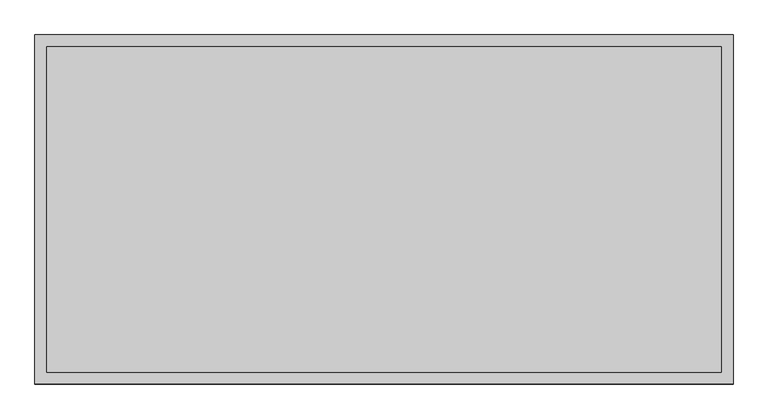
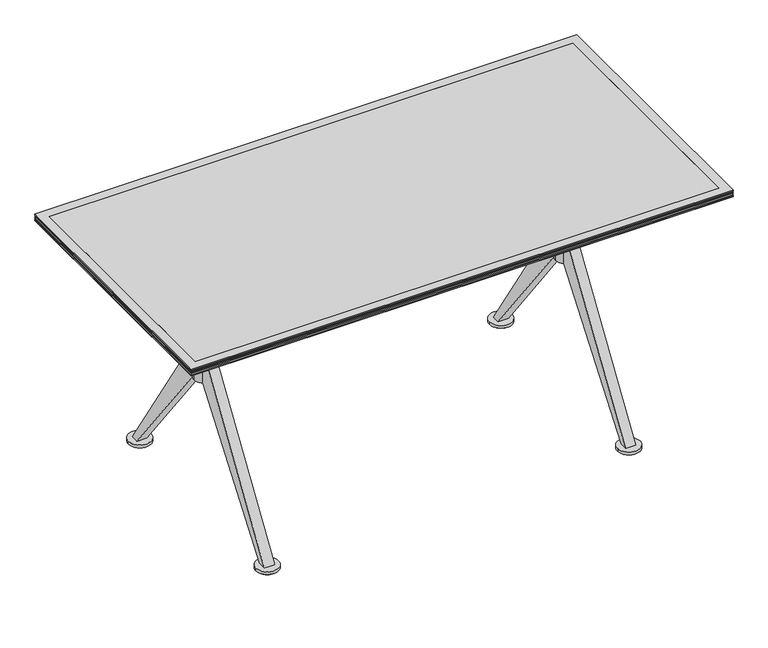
"""IFC4 building model written with IfcOpenShell, lengths in millimetres: furniture geometry, Coalesse_AM_Table_Conference_Ballet_Rectangular_XBase : Folding - 60L x 30W."""

from ifc_helpers import new_model, si_unit, point, frame, frame_2d, origin, origin_with_axes, place, context, project, spatial, polyline, circle_curve, trimmed, segment, composite_curve, outline, extrude, faceted_brep, source, transform, mapped, element, save
from ifc_brep_helpers import plane_surface, cylinder_surface, advanced_brep


def furniture_4b4476a1(model_context):
    return source(origin(), model_context, "Body", "SolidModel", [
        extrude(outline(composite_curve([segment(trimmed(circle_curve(frame_2d((-507.9480536, 310.3799254)), 25.4), [point((-533.3480536, 310.3799254))], [point((-482.5480536, 310.3799254))], False, "CARTESIAN"), True, "CONTINUOUS"), segment(trimmed(circle_curve(frame_2d((-507.9480536, 310.3799254)), 25.4), [point((-482.5480536, 310.3799254))], [point((-533.3480536, 310.3799254))], False, "CARTESIAN"), True, "CONTINUOUS")], self_intersect=False)), origin_with_axes(), (0.0, 0.0, 1.0), 4.5427804),
        extrude(outline(composite_curve([segment(trimmed(circle_curve(frame_2d((-508.5656541, -311.83186)), 25.4), [point((-533.9656541, -311.83186))], [point((-483.1656541, -311.83186))], False, "CARTESIAN"), True, "CONTINUOUS"), segment(trimmed(circle_curve(frame_2d((-508.5656541, -311.83186)), 25.4), [point((-483.1656541, -311.83186))], [point((-533.9656541, -311.83186))], False, "CARTESIAN"), True, "CONTINUOUS")], self_intersect=False)), origin_with_axes(), (0.0, 0.0, 1.0), 4.5427804),
        extrude(outline(composite_curve([segment(trimmed(circle_curve(frame_2d((507.9480536, 310.388)), 25.4), [point((482.5480536, 310.388))], [point((533.3480536, 310.388))], False, "CARTESIAN"), True, "CONTINUOUS"), segment(trimmed(circle_curve(frame_2d((507.9480536, 310.388)), 25.4), [point((533.3480536, 310.388))], [point((482.5480536, 310.388))], False, "CARTESIAN"), True, "CONTINUOUS")], self_intersect=False)), origin_with_axes(), (0.0, 0.0, 1.0), 4.5427804),
        extrude(outline(composite_curve([segment(trimmed(circle_curve(frame_2d((508.5656541, -311.83186)), 25.4), [point((483.1656541, -311.83186))], [point((533.9656541, -311.83186))], False, "CARTESIAN"), True, "CONTINUOUS"), segment(trimmed(circle_curve(frame_2d((508.5656541, -311.83186)), 25.4), [point((533.9656541, -311.83186))], [point((483.1656541, -311.83186))], False, "CARTESIAN"), True, "CONTINUOUS")], self_intersect=False)), origin_with_axes(), (0.0, 0.0, 1.0), 4.5427804),
        extrude(outline(composite_curve([segment(trimmed(circle_curve(frame_2d((-507.9480536, 310.3799254)), 31.7510292), [point((-539.6990828, 310.3799254))], [point((-476.1970244, 310.3799254))], False, "CARTESIAN"), True, "CONTINUOUS"), segment(trimmed(circle_curve(frame_2d((-507.9480536, 310.3799254)), 31.7510292), [point((-476.1970244, 310.3799254))], [point((-539.6990828, 310.3799254))], False, "CARTESIAN"), True, "CONTINUOUS")], self_intersect=False)), frame((0.0, 0.0, 4.5427804), z_axis=(0.0, 0.0, 1.0), x_axis=(1.0, 0.0, 0.0)), (0.0, 0.0, 1.0), 8.1572196),
        extrude(outline(composite_curve([segment(trimmed(circle_curve(frame_2d((-508.5656541, -311.83186)), 31.75), [point((-540.3156541, -311.83186))], [point((-476.8156541, -311.83186))], False, "CARTESIAN"), True, "CONTINUOUS"), segment(trimmed(circle_curve(frame_2d((-508.5656541, -311.83186)), 31.75), [point((-476.8156541, -311.83186))], [point((-540.3156541, -311.83186))], False, "CARTESIAN"), True, "CONTINUOUS")], self_intersect=False)), frame((0.0, 0.0, 4.5427804), z_axis=(0.0, 0.0, 1.0), x_axis=(1.0, 0.0, 0.0)), (0.0, 0.0, 1.0), 8.1572196),
        extrude(outline(composite_curve([segment(trimmed(circle_curve(frame_2d((507.9480536, 310.388)), 31.7510292), [point((476.1970244, 310.388))], [point((539.6990828, 310.388))], False, "CARTESIAN"), True, "CONTINUOUS"), segment(trimmed(circle_curve(frame_2d((507.9480536, 310.388)), 31.7510292), [point((539.6990828, 310.388))], [point((476.1970244, 310.388))], False, "CARTESIAN"), True, "CONTINUOUS")], self_intersect=False)), frame((0.0, 0.0, 4.5427804), z_axis=(0.0, 0.0, 1.0), x_axis=(1.0, 0.0, 0.0)), (0.0, 0.0, 1.0), 8.1572196),
        extrude(outline(composite_curve([segment(trimmed(circle_curve(frame_2d((508.5656541, -311.83186)), 31.75), [point((476.8156541, -311.83186))], [point((540.3156541, -311.83186))], False, "CARTESIAN"), True, "CONTINUOUS"), segment(trimmed(circle_curve(frame_2d((508.5656541, -311.83186)), 31.75), [point((540.3156541, -311.83186))], [point((476.8156541, -311.83186))], False, "CARTESIAN"), True, "CONTINUOUS")], self_intersect=False)), frame((0.0, 0.0, 4.5427804), z_axis=(0.0, 0.0, 1.0), x_axis=(1.0, 0.0, 0.0)), (0.0, 0.0, 1.0), 8.1572196),
        extrude(outline(polyline([(21.0343629, 381.0), (21.0343629, 482.7111245), (322.2625018, 12.7), (299.8750745, 12.7), (21.0343629, 381.0)])), frame((493.649, 0.0, 0.0), z_axis=(1.0, 0.0, 0.0), x_axis=(0.0, 1.0, 0.0)), (0.0, 0.0, 1.0), 28.575),
        extrude(outline(polyline([(-21.0343629, 381.0), (-299.8750745, 12.7), (-322.2625018, 12.7), (-21.0343629, 482.7111245), (-21.0343629, 381.0)])), frame((493.649, 0.0, 0.0), z_axis=(1.0, 0.0, 0.0), x_axis=(0.0, 1.0, 0.0)), (0.0, 0.0, 1.0), 28.575),
        extrude(outline(polyline([(21.0343629, 381.0), (21.0343629, 482.7111245), (322.2625018, 12.7), (299.8750745, 12.7), (21.0343629, 381.0)])), frame((-522.224, 0.0, 0.0), z_axis=(1.0, 0.0, 0.0), x_axis=(0.0, 1.0, 0.0)), (0.0, 0.0, 1.0), 28.5877172),
        extrude(outline(polyline([(-21.0343629, 381.0), (-299.8750745, 12.7), (-322.2625018, 12.7), (-21.0343629, 482.7111245), (-21.0343629, 381.0)])), frame((-522.224, 0.0, 0.0), z_axis=(1.0, 0.0, 0.0), x_axis=(0.0, 1.0, 0.0)), (0.0, 0.0, 1.0), 28.5877172),
        extrude(outline(polyline([(-21.0343629, 577.7388634), (-333.375, 698.5000242), (-305.990625, 698.5000242), (-21.0343629, 641.3500242), (-21.0343629, 577.7388634)])), frame((493.649, 0.0, 0.0), z_axis=(1.0, 0.0, 0.0), x_axis=(0.0, 1.0, 0.0)), (0.0, 0.0, 1.0), 28.575),
        extrude(outline(polyline([(21.0343629, 577.7388634), (21.0343629, 641.3501773), (305.990625, 698.5000242), (333.375, 698.5000242), (21.0343629, 577.7388634)])), frame((493.649, 0.0, 0.0), z_axis=(1.0, 0.0, 0.0), x_axis=(0.0, 1.0, 0.0)), (0.0, 0.0, 1.0), 28.575),
        extrude(outline(polyline([(-21.0343629, 577.7388634), (-333.375, 698.5000242), (-305.990625, 698.5000242), (-21.0343629, 641.3500242), (-21.0343629, 577.7388634)])), frame((-522.224, 0.0, 0.0), z_axis=(1.0, 0.0, 0.0), x_axis=(0.0, 1.0, 0.0)), (0.0, 0.0, 1.0), 28.5877172),
        extrude(outline(polyline([(21.0343629, 577.7388634), (21.0343629, 641.3501773), (305.990625, 698.5000242), (333.375, 698.5000242), (21.0343629, 577.7388634)])), frame((-522.224, 0.0, 0.0), z_axis=(1.0, 0.0, 0.0), x_axis=(0.0, 1.0, 0.0)), (0.0, 0.0, 1.0), 28.5877172),
        advanced_brep(
        [(486.5269775, 12.6999879, 492.1250121), (-486.5269775, 12.6999879, 492.1250121), (-486.5269775, 12.6999879, 568.3250121), (486.5269775, 12.6999879, 568.3250121), (-483.1240298, 0.0, 568.3250121), (-486.5269775, -12.6999879, 568.3250121), (486.5269775, -12.6999879, 568.3250121), (483.1240298, 0.0, 568.3250121), (-486.5269775, -12.6999879, 492.1250121), (486.5269775, -12.6999879, 492.1250121), (483.1240298, 0.0, 492.1250121), (-483.1240298, 0.0, 492.1250121), (-533.9240298, 0.0, 641.3500242), (-483.1240298, 0.0, 641.3500242), (483.1240298, 0.0, 641.3500242), (533.9240298, 0.0, 641.3500242), (-533.9240298, 0.0, 381.0), (-483.1240298, 0.0, 381.0), (483.1240298, 0.0, 381.0), (533.9240298, 0.0, 381.0)],
        [
            (0, 1),
            (1, 2),
            (2, 3),
            (3, 0),
            (2, 4, circle_curve(frame((-508.5240298, 0.0, 568.3250121), z_axis=(0.0, 0.0, -1.0), x_axis=(1.0, 0.0, 0.0)), 25.4)),
            (4, 5, circle_curve(frame((-508.5240298, 0.0, 568.3250121), z_axis=(0.0, 0.0, -1.0), x_axis=(1.0, 0.0, 0.0)), 25.4)),
            (5, 6),
            (6, 7, circle_curve(frame((508.5240298, 0.0, 568.3250121), z_axis=(0.0, 0.0, -1.0), x_axis=(1.0, 0.0, 0.0)), 25.4)),
            (7, 3, circle_curve(frame((508.5240298, 0.0, 568.3250121), z_axis=(0.0, 0.0, -1.0), x_axis=(1.0, 0.0, 0.0)), 25.4)),
            (5, 8),
            (8, 9),
            (9, 6),
            (0, 10, circle_curve(frame((508.5240298, 0.0, 492.1250121), z_axis=(0.0, 0.0, 1.0), x_axis=(1.0, 0.0, 0.0)), 25.4)),
            (10, 9, circle_curve(frame((508.5240298, 0.0, 492.1250121), z_axis=(0.0, 0.0, 1.0), x_axis=(1.0, 0.0, 0.0)), 25.4)),
            (8, 11, circle_curve(frame((-508.5240298, 0.0, 492.1250121), z_axis=(0.0, 0.0, 1.0), x_axis=(1.0, 0.0, 0.0)), 25.4)),
            (11, 1, circle_curve(frame((-508.5240298, 0.0, 492.1250121), z_axis=(0.0, 0.0, 1.0), x_axis=(1.0, 0.0, 0.0)), 25.4)),
            (12, 13, circle_curve(frame((-508.5240298, 0.0, 641.3500242), z_axis=(0.0, 0.0, 1.0), x_axis=(1.0, 0.0, 0.0)), 25.4)),
            (13, 12, circle_curve(frame((-508.5240298, 0.0, 641.3500242), z_axis=(0.0, 0.0, 1.0), x_axis=(1.0, 0.0, 0.0)), 25.4)),
            (14, 15, circle_curve(frame((508.5240298, 0.0, 641.3500242), z_axis=(0.0, 0.0, 1.0), x_axis=(1.0, 0.0, 0.0)), 25.4)),
            (15, 14, circle_curve(frame((508.5240298, 0.0, 641.3500242), z_axis=(0.0, 0.0, 1.0), x_axis=(1.0, 0.0, 0.0)), 25.4)),
            (16, 17, circle_curve(frame((-508.5240298, 0.0, 381.0), z_axis=(0.0, 0.0, -1.0), x_axis=(1.0, 0.0, 0.0)), 25.4)),
            (17, 16, circle_curve(frame((-508.5240298, 0.0, 381.0), z_axis=(0.0, 0.0, -1.0), x_axis=(1.0, 0.0, 0.0)), 25.4)),
            (18, 19, circle_curve(frame((508.5240298, 0.0, 381.0), z_axis=(0.0, 0.0, -1.0), x_axis=(1.0, 0.0, 0.0)), 25.4)),
            (19, 18, circle_curve(frame((508.5240298, 0.0, 381.0), z_axis=(0.0, 0.0, -1.0), x_axis=(1.0, 0.0, 0.0)), 25.4)),
            (12, 16),
            (17, 11),
            (4, 13),
            (14, 7),
            (10, 18),
            (19, 15),
        ],
        [
            plane_surface(frame((493.649, 12.6999879, 492.1250121), z_axis=(0.0, 1.0, 0.0), x_axis=(-1.0, 0.0, 0.0))),
            plane_surface(frame((493.649, 12.6999879, 568.3250121), z_axis=(0.0, 0.0, 1.0), x_axis=(-1.0, 0.0, 0.0))),
            plane_surface(frame((493.649, -12.6999879, 568.3250121), z_axis=(0.0, -1.0, 0.0), x_axis=(-1.0, 0.0, 0.0))),
            plane_surface(frame((493.649, -12.6999879, 492.1250121), z_axis=(0.0, 0.0, -1.0), x_axis=(-1.0, 0.0, 0.0))),
            plane_surface(frame((-483.1240298, 0.0, 641.3500242), z_axis=(0.0, 0.0, 1.0), x_axis=(0.0, 1.0, 0.0))),
            plane_surface(frame((-483.1240298, 0.0, 381.0), z_axis=(0.0, 0.0, -1.0), x_axis=(0.0, -1.0, 0.0))),
            cylinder_surface(frame((-508.5240298, 0.0, 381.0), z_axis=(0.0, 0.0, 1.0), x_axis=(1.0, 0.0, 0.0)), 25.4),
            cylinder_surface(frame((508.5240298, 0.0, 0.0), z_axis=(0.0, 0.0, 1.0), x_axis=(1.0, 0.0, 0.0)), 25.4),
        ],
        [
            (0, [[1, 2, 3, 4]]),
            (1, [[-3, 5, 6, 7, 8, 9]]),
            (2, [[-7, 10, 11, 12]]),
            (3, [[-1, 13, 14, -11, 15, 16]]),
            (4, [[17, 18]]),
            (4, [[19, 20]]),
            (5, [[21, 22]]),
            (5, [[23, 24]]),
            (6, [[-17, 25, -22, 26, -15, -10, -6, 27]]),
            (6, [[-18, -27, -5, -2, -16, -26, -21, -25]]),
            (7, [[-19, 28, -8, -12, -14, 29, -24, 30]]),
            (7, [[-20, -30, -23, -29, -13, -4, -9, -28]]),
        ],
    ),
        faceted_brep([(-762.0003633, 381.0, 704.85), (-736.6003876, 355.6000242, 698.5000242), (-736.6003876, -355.5999516, 698.5000242), (-762.0003633, -380.9999273, 704.85), (-762.0003633, 381.0, 708.0250242), (-762.0003633, -380.9999273, 708.0250242), (-758.8253755, 377.8250121, 709.6125), (-758.8253755, -377.8249394, 709.6125), (-762.0003633, 381.0, 711.1999758), (-762.0003633, -380.9999273, 711.1999758), (-758.8253755, 377.8250121, 712.7875242), (-758.8253755, -377.8249394, 712.7875242), (-762.0003633, 381.0, 714.375), (-762.0003633, -380.9999273, 714.375), (-758.8253755, 377.8250121, 715.9624758), (-758.8253755, -377.8249394, 715.9624758), (-762.0003633, 381.0, 717.5500242), (-762.0003633, -380.9999273, 717.5500242), (-758.8253755, 377.8250121, 719.1375), (-758.8253755, -377.8249394, 719.1375), (-762.0003633, 381.0, 720.7249758), (-762.0003633, -380.9999273, 720.7249758), (-762.0003633, 381.0, 723.9), (-762.0003633, -380.9999273, 723.9), (-736.6003876, 355.6000242, 723.9), (-736.6003876, -355.5999516, 723.9), (736.6, -355.5999516, 698.5000242), (761.9999758, -380.9999273, 704.85), (761.9999758, -380.9999273, 708.0250242), (758.8249879, -377.8249394, 709.6125), (761.9999758, -380.9999273, 711.1999758), (758.8249879, -377.8249394, 712.7875242), (761.9999758, -380.9999273, 714.375), (758.8249879, -377.8249394, 715.9624758), (761.9999758, -380.9999273, 717.5500242), (758.8249879, -377.8249394, 719.1375), (761.9999758, -380.9999273, 720.7249758), (761.9999758, -380.9999273, 723.9), (736.6, -355.5999516, 723.9), (736.6, 355.6000242, 698.5000242), (761.9999758, 381.0, 704.85), (761.9999758, 381.0, 708.0250242), (758.8249879, 377.8250121, 709.6125), (761.9999758, 381.0, 711.1999758), (758.8249879, 377.8250121, 712.7875242), (761.9999758, 381.0, 714.375), (758.8249879, 377.8250121, 715.9624758), (761.9999758, 381.0, 717.5500242), (758.8249879, 377.8250121, 719.1375), (761.9999758, 381.0, 720.7249758), (761.9999758, 381.0, 723.9), (736.6, 355.6000242, 723.9)], [[[0, 1, 2, 3]], [[4, 0, 3, 5]], [[6, 4, 5, 7]], [[8, 6, 7, 9]], [[10, 8, 9, 11]], [[12, 10, 11, 13]], [[14, 12, 13, 15]], [[16, 14, 15, 17]], [[18, 16, 17, 19]], [[20, 18, 19, 21]], [[22, 20, 21, 23]], [[1, 24, 25, 2]], [[3, 2, 26, 27]], [[5, 3, 27, 28]], [[7, 5, 28, 29]], [[9, 7, 29, 30]], [[11, 9, 30, 31]], [[13, 11, 31, 32]], [[15, 13, 32, 33]], [[17, 15, 33, 34]], [[19, 17, 34, 35]], [[21, 19, 35, 36]], [[23, 21, 36, 37]], [[2, 25, 38, 26]], [[27, 26, 39, 40]], [[28, 27, 40, 41]], [[29, 28, 41, 42]], [[30, 29, 42, 43]], [[31, 30, 43, 44]], [[32, 31, 44, 45]], [[33, 32, 45, 46]], [[34, 33, 46, 47]], [[35, 34, 47, 48]], [[36, 35, 48, 49]], [[37, 36, 49, 50]], [[26, 38, 51, 39]], [[40, 39, 1, 0]], [[41, 40, 0, 4]], [[42, 41, 4, 6]], [[43, 42, 6, 8]], [[44, 43, 8, 10]], [[45, 44, 10, 12]], [[46, 45, 12, 14]], [[47, 46, 14, 16]], [[48, 47, 16, 18]], [[49, 48, 18, 20]], [[50, 49, 20, 22]], [[23, 37, 50, 22], [24, 51, 38, 25]], [[39, 51, 24, 1]]]),
        extrude(outline(polyline([(736.6, 355.6000242), (736.6, -355.5999516), (-736.6003876, -355.5999516), (-736.6003876, 355.6000242), (736.6, 355.6000242)])), frame((0.0, 0.0, 704.85), z_axis=(0.0, 0.0, 1.0), x_axis=(1.0, 0.0, 0.0)), (0.0, 0.0, 1.0), 19.05),
    ])


if __name__ == "__main__":
    model = new_model("IFC4")
    model_context = context("Model", 3, world=origin())
    ifc_project = project(units=[si_unit("LENGTHUNIT", "METRE", prefix="MILLI")], contexts=[model_context])
    site = spatial("IfcSite", under=ifc_project)
    building = spatial("IfcBuilding", under=site)
    placement = place(None, origin())
    furniture_shape = furniture_4b4476a1(model_context)
    element("IfcFurniture", 1, ObjectType="Coalesse_AM_Table_Conference_Ballet_Rectangular_XBase : Folding - 60L x 30W", at=placement, inside=building, context=model_context, shape_type="MappedRepresentation", body=[
        mapped(furniture_shape, transform((0.0, 0.0, 0.0), x_axis=(1.0, 0.0, 0.0), y_axis=(0.0, 1.0, 0.0), z_axis=(0.0, 0.0, 1.0))),
    ])
    save(model, "model.ifc")
